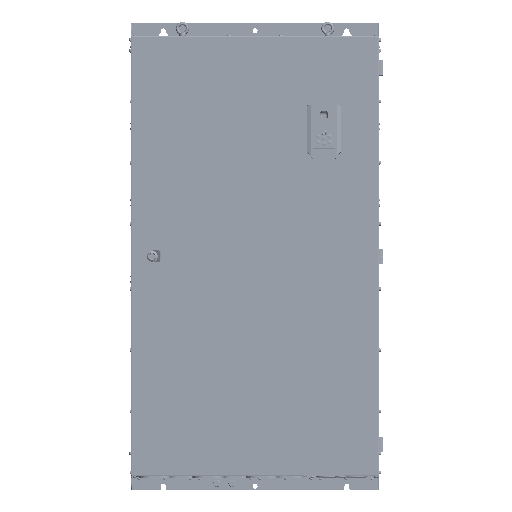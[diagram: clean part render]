
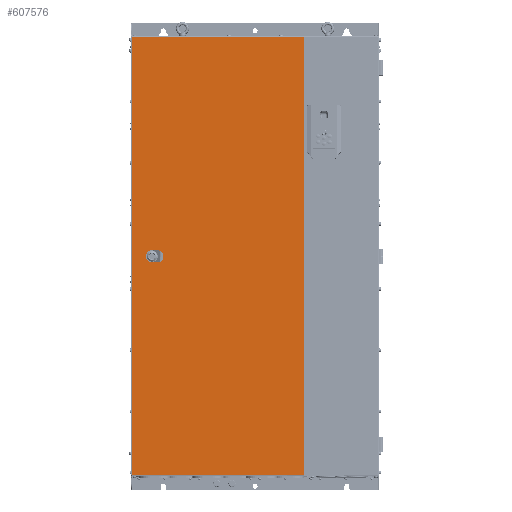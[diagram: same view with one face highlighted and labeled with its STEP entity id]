
A CAD part, top view. The second image highlights one B-rep face of the part: STEP entity #607576.
In plain terms, the highlighted planar face has unit normal (0, 0, 1).
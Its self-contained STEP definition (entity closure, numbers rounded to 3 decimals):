
#605483=DIRECTION('',(0.,-1.,0.));
#605484=VECTOR('',#605483,1145.05);
#605485=CARTESIAN_POINT('',(-322.25,1147.75,10.5));
#605486=LINE('',#605485,#605484);
#605851=DIRECTION('',(1.,0.,0.));
#605852=VECTOR('',#605851,449.25);
#605853=CARTESIAN_POINT('',(-322.25,2.7,10.5));
#605854=LINE('',#605853,#605852);
#605912=DIRECTION('',(1.,0.,0.));
#605913=VECTOR('',#605912,12.052);
#605914=CARTESIAN_POINT('',(-275.526,584.5,10.5));
#605915=LINE('',#605914,#605913);
#605919=CARTESIAN_POINT('',(-269.5,575.,10.5));
#605920=DIRECTION('',(0.,0.,1.));
#605921=DIRECTION('',(-0.536,0.844,0.));
#605922=AXIS2_PLACEMENT_3D('',#605919,#605920,#605921);
#605927=DIRECTION('',(0.,1.,0.));
#605928=VECTOR('',#605927,12.052);
#605929=CARTESIAN_POINT('',(-279.,568.974,10.5));
#605930=LINE('',#605929,#605928);
#605934=CARTESIAN_POINT('',(-269.5,575.,10.5));
#605935=DIRECTION('',(0.,0.,1.));
#605936=DIRECTION('',(-0.844,-0.536,0.));
#605937=AXIS2_PLACEMENT_3D('',#605934,#605935,#605936);
#605942=DIRECTION('',(-1.,0.,0.));
#605943=VECTOR('',#605942,12.052);
#605944=CARTESIAN_POINT('',(-263.474,565.5,10.5));
#605945=LINE('',#605944,#605943);
#605949=CARTESIAN_POINT('',(-269.5,575.,10.5));
#605950=DIRECTION('',(0.,0.,1.));
#605951=DIRECTION('',(0.536,-0.844,0.));
#605952=AXIS2_PLACEMENT_3D('',#605949,#605950,#605951);
#605957=DIRECTION('',(0.,-1.,0.));
#605958=VECTOR('',#605957,12.052);
#605959=CARTESIAN_POINT('',(-260.,581.026,10.5));
#605960=LINE('',#605959,#605958);
#605964=CARTESIAN_POINT('',(-269.5,575.,10.5));
#605965=DIRECTION('',(0.,0.,1.));
#605966=DIRECTION('',(0.844,0.536,0.));
#605967=AXIS2_PLACEMENT_3D('',#605964,#605965,#605966);
#605972=DIRECTION('',(0.,-1.,0.));
#605973=VECTOR('',#605972,1145.05);
#605974=CARTESIAN_POINT('',(127.,1147.75,10.5));
#605975=LINE('',#605974,#605973);
#606057=DIRECTION('',(1.,0.,0.));
#606058=VECTOR('',#606057,449.25);
#606059=CARTESIAN_POINT('',(-322.25,1147.75,10.5));
#606060=LINE('',#606059,#606058);
#606895=CARTESIAN_POINT('',(-322.25,1147.75,10.5));
#606896=CARTESIAN_POINT('',(-322.25,2.7,10.5));
#606897=VERTEX_POINT('',#606895);
#606898=VERTEX_POINT('',#606896);
#607008=CARTESIAN_POINT('',(-275.526,584.5,10.5));
#607009=CARTESIAN_POINT('',(-263.474,584.5,10.5));
#607010=VERTEX_POINT('',#607008);
#607011=VERTEX_POINT('',#607009);
#607012=CARTESIAN_POINT('',(-260.,581.026,10.5));
#607013=VERTEX_POINT('',#607012);
#607014=CARTESIAN_POINT('',(-260.,568.974,10.5));
#607015=VERTEX_POINT('',#607014);
#607016=CARTESIAN_POINT('',(-263.474,565.5,10.5));
#607017=VERTEX_POINT('',#607016);
#607018=CARTESIAN_POINT('',(-275.526,565.5,10.5));
#607019=VERTEX_POINT('',#607018);
#607020=CARTESIAN_POINT('',(-279.,568.974,10.5));
#607021=VERTEX_POINT('',#607020);
#607022=CARTESIAN_POINT('',(-279.,581.026,10.5));
#607023=VERTEX_POINT('',#607022);
#607040=CARTESIAN_POINT('',(127.,1147.75,10.5));
#607041=CARTESIAN_POINT('',(127.,2.7,10.5));
#607042=VERTEX_POINT('',#607040);
#607043=VERTEX_POINT('',#607041);
#607546=CARTESIAN_POINT('',(-324.5,1150.,10.5));
#607547=DIRECTION('',(0.,0.,1.));
#607548=DIRECTION('',(0.,-1.,0.));
#607549=AXIS2_PLACEMENT_3D('',#607546,#607547,#607548);
#607550=PLANE('',#607549);
#607551=ORIENTED_EDGE('',*,*,#607537,.T.);
#607552=ORIENTED_EDGE('',*,*,#607476,.F.);
#607553=ORIENTED_EDGE('',*,*,#607228,.F.);
#607555=ORIENTED_EDGE('',*,*,#607554,.T.);
#607556=EDGE_LOOP('',(#607551,#607552,#607553,#607555));
#607557=FACE_OUTER_BOUND('',#607556,.F.);
#607559=ORIENTED_EDGE('',*,*,#607558,.F.);
#607561=ORIENTED_EDGE('',*,*,#607560,.T.);
#607563=ORIENTED_EDGE('',*,*,#607562,.F.);
#607565=ORIENTED_EDGE('',*,*,#607564,.T.);
#607567=ORIENTED_EDGE('',*,*,#607566,.F.);
#607569=ORIENTED_EDGE('',*,*,#607568,.T.);
#607571=ORIENTED_EDGE('',*,*,#607570,.F.);
#607573=ORIENTED_EDGE('',*,*,#607572,.T.);
#607574=EDGE_LOOP('',(#607559,#607561,#607563,#607565,#607567,#607569,#607571,
#607573));
#607575=FACE_BOUND('',#607574,.F.);
#607576=ADVANCED_FACE('',(#607557,#607575),#607550,.T.);
#605923=CIRCLE('',#605922,11.25);
#605938=CIRCLE('',#605937,11.25);
#605953=CIRCLE('',#605952,11.25);
#605968=CIRCLE('',#605967,11.25);
#607228=EDGE_CURVE('',#606897,#606898,#605486,.T.);
#607476=EDGE_CURVE('',#606898,#607043,#605854,.T.);
#607537=EDGE_CURVE('',#607042,#607043,#605975,.T.);
#607554=EDGE_CURVE('',#606897,#607042,#606060,.T.);
#607558=EDGE_CURVE('',#607010,#607011,#605915,.T.);
#607560=EDGE_CURVE('',#607010,#607023,#605923,.T.);
#607562=EDGE_CURVE('',#607021,#607023,#605930,.T.);
#607564=EDGE_CURVE('',#607021,#607019,#605938,.T.);
#607566=EDGE_CURVE('',#607017,#607019,#605945,.T.);
#607568=EDGE_CURVE('',#607017,#607015,#605953,.T.);
#607570=EDGE_CURVE('',#607013,#607015,#605960,.T.);
#607572=EDGE_CURVE('',#607013,#607011,#605968,.T.);
